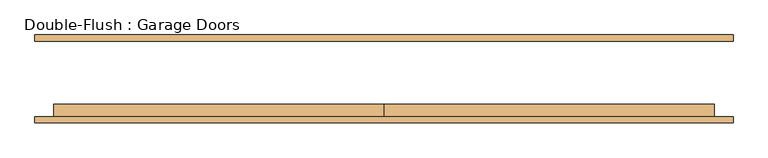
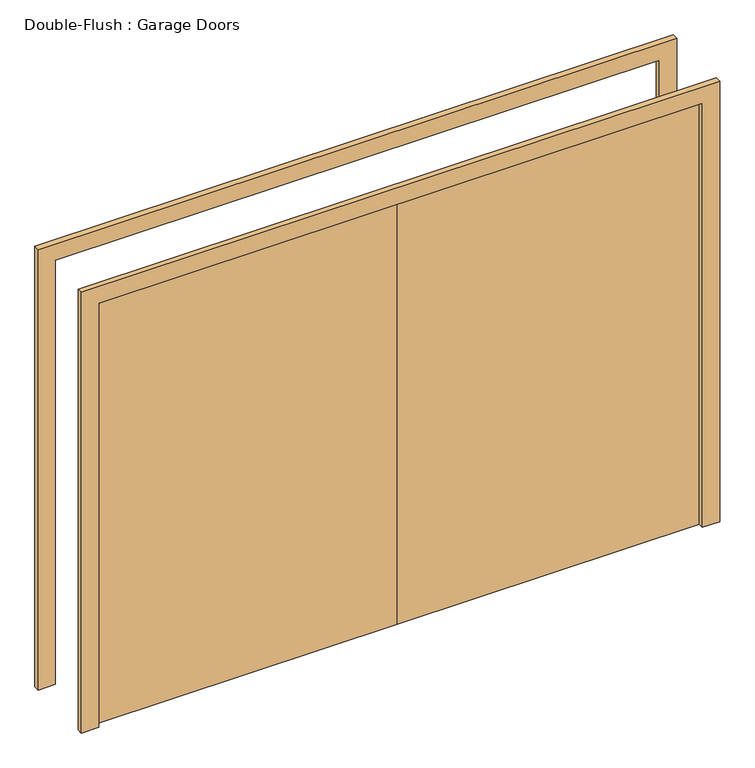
"""IFC4 building model written with IfcOpenShell, lengths in millimetres: door geometry, Double-Flush : Garage Doors."""

from ifc_helpers import new_model, si_unit, frame, origin, origin_with_axes, place, context, project, spatial, polyline, outline, extrude, source, transform, mapped, element, save


def double_flush_garage_doors_196828e7(model_context):
    return source(origin(), model_context, "Body", "SweptSolid", [
        extrude(outline(polyline([(0.0, -152.4), (0.0, -101.6), (1333.5, -101.6), (1333.5, -152.4), (0.0, -152.4)])), origin_with_axes(), (0.0, 0.0, 1.0), 1981.2),
        extrude(outline(polyline([(-1333.5, -152.4), (-1333.5, -101.6), (0.0, -101.6), (0.0, -152.4), (-1333.5, -152.4)])), origin_with_axes(), (0.0, 0.0, 1.0), 1981.2),
        extrude(outline(polyline([(1981.2, -1333.5), (1981.2, 1333.5), (0.0, 1333.5), (0.0, 1409.7), (2057.4, 1409.7), (2057.4, -1409.7), (0.0, -1409.7), (0.0, -1333.5), (1981.2, -1333.5)])), frame((0.0, 152.4, 0.0), z_axis=(0.0, 1.0, 0.0), x_axis=(0.0, 0.0, 1.0)), (0.0, 0.0, 1.0), 25.4),
        extrude(outline(polyline([(1981.2, -1333.5), (1981.2, 1333.5), (0.0, 1333.5), (0.0, 1409.7), (2057.4, 1409.7), (2057.4, -1409.7), (0.0, -1409.7), (0.0, -1333.5), (1981.2, -1333.5)])), frame((0.0, -177.8, 0.0), z_axis=(0.0, 1.0, 0.0), x_axis=(0.0, 0.0, 1.0)), (0.0, 0.0, 1.0), 25.4),
    ])


if __name__ == "__main__":
    model = new_model("IFC4")
    model_context = context("Model", 3, world=origin())
    ifc_project = project(units=[si_unit("LENGTHUNIT", "METRE", prefix="MILLI")], contexts=[model_context])
    site = spatial("IfcSite", under=ifc_project)
    building = spatial("IfcBuilding", under=site)
    placement = place(None, origin())
    double_flush_garage_doors_shape = double_flush_garage_doors_196828e7(model_context)
    element("IfcDoor", 1, ObjectType="Double-Flush : Garage Doors", at=placement, inside=building, context=model_context, shape_type="MappedRepresentation", body=[
        mapped(double_flush_garage_doors_shape, transform((0.0, 0.0, 0.0), x_axis=(1.0, 0.0, 0.0), y_axis=(0.0, 1.0, 0.0), z_axis=(0.0, 0.0, 1.0))),
    ])
    save(model, "model.ifc")
